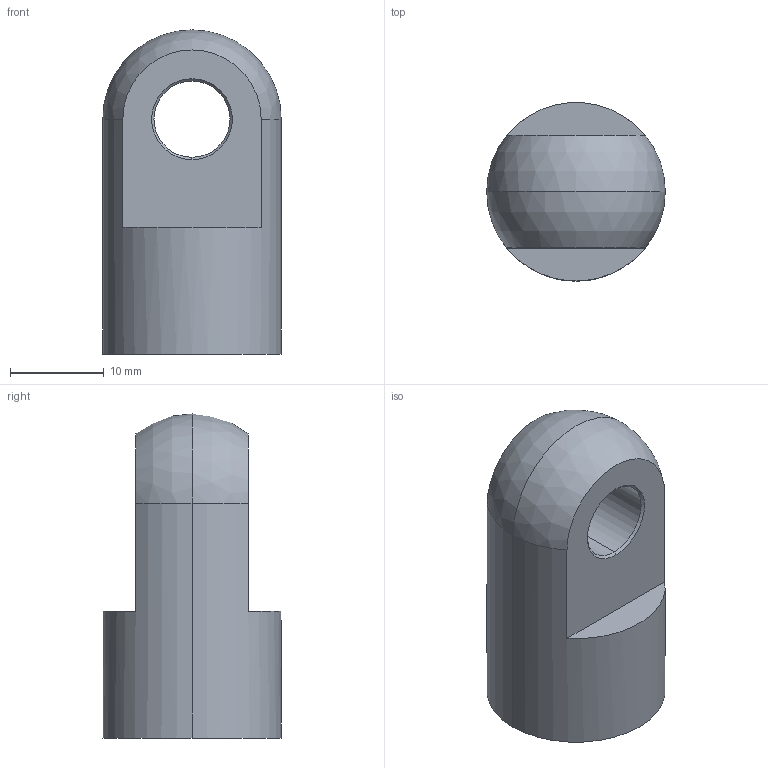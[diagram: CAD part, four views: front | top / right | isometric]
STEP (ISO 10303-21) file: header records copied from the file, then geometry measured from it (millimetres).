
FILE_DESCRIPTION (( 'STEP AP214' ), '1' );
FILE_NAME ('18.09N2AD25.STEP', '2017-11-09T09:32:58', ( '' ), ( '' ), 'SwSTEP 2.0', 'SolidWorks 2016', '' );
FILE_SCHEMA (( 'AUTOMOTIVE_DESIGN' ));
Length unit declared in the file: millimetre
Products named in the file (1): 18.09N2AD25
Bounding box: 19 x 19 x 34.5 mm (x, y, z)
Volume: 6385.3 mm3; surface area: 2844.6 mm2
Topology: 1 solids, 1 shells, 21 faces, 48 edges, 28 vertices
Faces by surface type: cone 8, cylinder 6, plane 5, sphere 2
Entity records: 620 total; most frequent: DIRECTION 116, CARTESIAN_POINT 96, ORIENTED_EDGE 92, AXIS2_PLACEMENT_3D 48, EDGE_CURVE 46, VERTEX_POINT 28, CIRCLE 26, EDGE_LOOP 24
